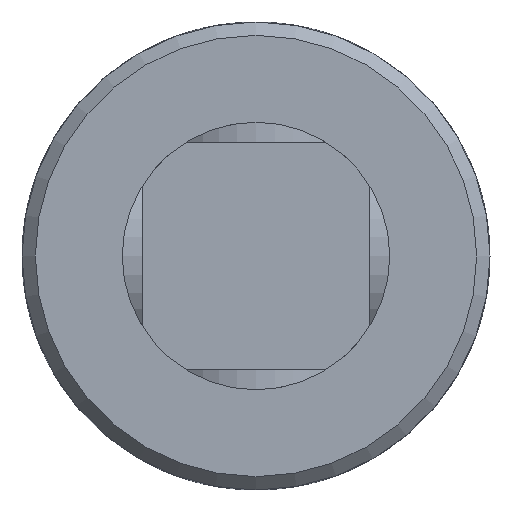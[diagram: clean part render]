
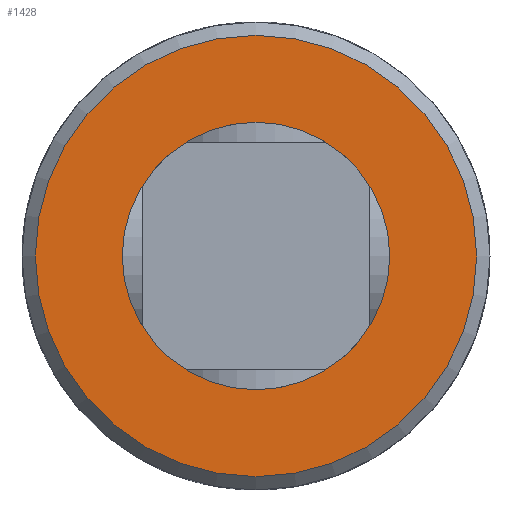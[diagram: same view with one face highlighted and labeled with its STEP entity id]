
A CAD part, front view. The second image highlights one B-rep face of the part: STEP entity #1428.
In plain terms, the highlighted planar face has unit normal (0, -1, 0).
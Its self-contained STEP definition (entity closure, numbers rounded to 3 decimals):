
#268=FACE_BOUND('',#489,.T.);
#367=FACE_OUTER_BOUND('',#488,.T.);
#488=EDGE_LOOP('',(#1216));
#489=EDGE_LOOP('',(#1217));
#567=CIRCLE('',#1567,33.);
#568=CIRCLE('',#1570,20.);
#690=VERTEX_POINT('',#2859);
#707=VERTEX_POINT('',#3093);
#870=EDGE_CURVE('',#690,#690,#567,.T.);
#887=EDGE_CURVE('',#707,#707,#568,.T.);
#1216=ORIENTED_EDGE('',*,*,#870,.F.);
#1217=ORIENTED_EDGE('',*,*,#887,.T.);
#1351=PLANE('',#1569);
#1428=ADVANCED_FACE('',(#367,#268),#1351,.F.);
#1567=AXIS2_PLACEMENT_3D('',#2860,#1877,#1878);
#1569=AXIS2_PLACEMENT_3D('',#3092,#1885,#1886);
#1570=AXIS2_PLACEMENT_3D('',#3094,#1887,#1888);
#1877=DIRECTION('center_axis',(0.,1.,0.));
#1878=DIRECTION('ref_axis',(1.,0.,0.));
#1885=DIRECTION('center_axis',(0.,1.,0.));
#1886=DIRECTION('ref_axis',(0.,0.,1.));
#1887=DIRECTION('center_axis',(0.,1.,0.));
#1888=DIRECTION('ref_axis',(-1.,0.,0.));
#2859=CARTESIAN_POINT('',(-33.,-100.,0.));
#2860=CARTESIAN_POINT('Origin',(0.,-100.,0.));
#3092=CARTESIAN_POINT('Origin',(0.,-100.,0.));
#3093=CARTESIAN_POINT('',(20.,-100.,0.));
#3094=CARTESIAN_POINT('Origin',(0.,-100.,0.));
